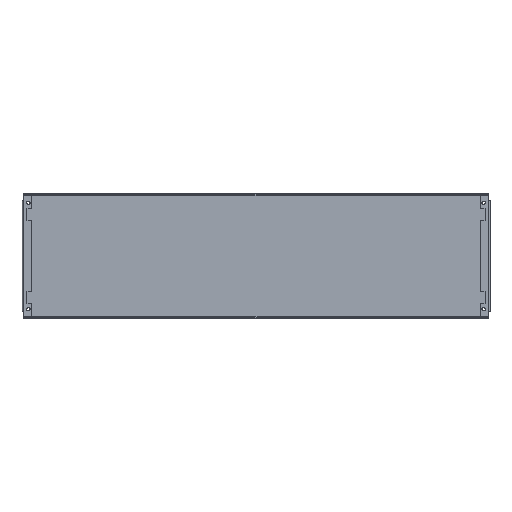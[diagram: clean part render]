
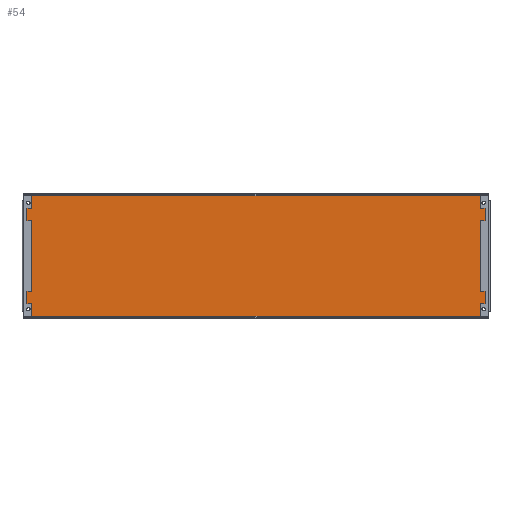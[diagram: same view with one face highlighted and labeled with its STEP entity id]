
A CAD part, top view. The second image highlights one B-rep face of the part: STEP entity #54.
In plain terms, the highlighted planar face has unit normal (0, 0, 1).
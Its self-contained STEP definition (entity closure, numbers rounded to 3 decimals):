
#54=ADVANCED_FACE('',(#186,#188,#190,#192,#194),#196,.T.);
#186=FACE_BOUND('',#187,.T.);
#187=EDGE_LOOP('',(#1129,#1130,#1131,#1132,#1133,#1134,#1135,#1136));
#188=FACE_BOUND('',#189,.T.);
#189=EDGE_LOOP('',(#1137));
#190=FACE_BOUND('',#191,.T.);
#191=EDGE_LOOP('',(#1138));
#192=FACE_BOUND('',#193,.T.);
#193=EDGE_LOOP('',(#1139));
#194=FACE_BOUND('',#195,.T.);
#195=EDGE_LOOP('',(#1140));
#196=PLANE('',#197);
#197=AXIS2_PLACEMENT_3D('',#198,#199,#200);
#198=CARTESIAN_POINT('',(0.,0.,2.));
#199=DIRECTION('',(0.,0.,1.));
#200=DIRECTION('',(1.,0.,0.));
#1129=ORIENTED_EDGE('',*,*,#1689,.T.);
#1130=ORIENTED_EDGE('',*,*,#1690,.T.);
#1131=ORIENTED_EDGE('',*,*,#1691,.T.);
#1132=ORIENTED_EDGE('',*,*,#1692,.T.);
#1133=ORIENTED_EDGE('',*,*,#1693,.T.);
#1134=ORIENTED_EDGE('',*,*,#1694,.T.);
#1135=ORIENTED_EDGE('',*,*,#1695,.T.);
#1136=ORIENTED_EDGE('',*,*,#1696,.T.);
#1137=ORIENTED_EDGE('',*,*,#1697,.T.);
#1138=ORIENTED_EDGE('',*,*,#1698,.T.);
#1139=ORIENTED_EDGE('',*,*,#1699,.T.);
#1140=ORIENTED_EDGE('',*,*,#1700,.T.);
#1689=EDGE_CURVE('',#1981,#1982,#1983,.F.);
#1690=EDGE_CURVE('',#1982,#1984,#1985,.T.);
#1691=EDGE_CURVE('',#1984,#1986,#1987,.F.);
#1692=EDGE_CURVE('',#1986,#1988,#1989,.T.);
#1693=EDGE_CURVE('',#1988,#1990,#1991,.F.);
#1694=EDGE_CURVE('',#1990,#1992,#1993,.T.);
#1695=EDGE_CURVE('',#1992,#1994,#1995,.F.);
#1696=EDGE_CURVE('',#1994,#1981,#1996,.T.);
#1697=EDGE_CURVE('',#1997,#1997,#1998,.T.);
#1698=EDGE_CURVE('',#1999,#1999,#2000,.T.);
#1699=EDGE_CURVE('',#2001,#2001,#2002,.T.);
#1700=EDGE_CURVE('',#2003,#2003,#2004,.T.);
#1981=VERTEX_POINT('',#2473);
#1982=VERTEX_POINT('',#2474);
#1983=LINE('',#2475,#2476);
#1984=VERTEX_POINT('',#2478);
#1985=LINE('',#2479,#2480);
#1986=VERTEX_POINT('',#2482);
#1987=LINE('',#2483,#2484);
#1988=VERTEX_POINT('',#2486);
#1989=LINE('',#2487,#2488);
#1990=VERTEX_POINT('',#2490);
#1991=LINE('',#2491,#2492);
#1992=VERTEX_POINT('',#2494);
#1993=LINE('',#2495,#2496);
#1994=VERTEX_POINT('',#2498);
#1995=LINE('',#2499,#2500);
#1996=LINE('',#2502,#2503);
#1997=VERTEX_POINT('',#2505);
#1998=CIRCLE('',#2506,8.5);
#1999=VERTEX_POINT('',#2510);
#2000=CIRCLE('',#2511,8.5);
#2001=VERTEX_POINT('',#2515);
#2002=CIRCLE('',#2516,8.5);
#2003=VERTEX_POINT('',#2520);
#2004=CIRCLE('',#2521,8.5);
#2473=CARTESIAN_POINT('',(4.,15.,2.));
#2474=CARTESIAN_POINT('',(4.,4.,2.));
#2475=CARTESIAN_POINT('',(4.,4.,2.));
#2476=VECTOR('',#2477,1.);
#2477=DIRECTION('',(0.,1.,0.));
#2478=CARTESIAN_POINT('',(1096.,4.,2.));
#2479=CARTESIAN_POINT('',(4.,4.,2.));
#2480=VECTOR('',#2481,1.);
#2481=DIRECTION('',(1.,0.,0.));
#2482=CARTESIAN_POINT('',(1096.,15.,2.));
#2483=CARTESIAN_POINT('',(1096.,15.,2.));
#2484=VECTOR('',#2485,1.);
#2485=DIRECTION('',(0.,-1.,0.));
#2486=CARTESIAN_POINT('',(1096.,277.,2.));
#2487=CARTESIAN_POINT('',(1096.,15.,2.));
#2488=VECTOR('',#2489,1.);
#2489=DIRECTION('',(0.,1.,0.));
#2490=CARTESIAN_POINT('',(1096.,288.,2.));
#2491=CARTESIAN_POINT('',(1096.,288.,2.));
#2492=VECTOR('',#2493,1.);
#2493=DIRECTION('',(0.,-1.,0.));
#2494=CARTESIAN_POINT('',(4.,288.,2.));
#2495=CARTESIAN_POINT('',(1096.,288.,2.));
#2496=VECTOR('',#2497,1.);
#2497=DIRECTION('',(-1.,0.,0.));
#2498=CARTESIAN_POINT('',(4.,277.,2.));
#2499=CARTESIAN_POINT('',(4.,277.,2.));
#2500=VECTOR('',#2501,1.);
#2501=DIRECTION('',(0.,1.,0.));
#2502=CARTESIAN_POINT('',(4.,277.,2.));
#2503=VECTOR('',#2504,1.);
#2504=DIRECTION('',(0.,-1.,0.));
#2505=CARTESIAN_POINT('',(23.5,21.,2.));
#2506=AXIS2_PLACEMENT_3D('',#2507,#2508,#2509);
#2507=CARTESIAN_POINT('',(15.,21.,2.));
#2508=DIRECTION('',(0.,0.,-1.));
#2509=DIRECTION('',(1.,0.,0.));
#2510=CARTESIAN_POINT('',(1093.5,21.,2.));
#2511=AXIS2_PLACEMENT_3D('',#2512,#2513,#2514);
#2512=CARTESIAN_POINT('',(1085.,21.,2.));
#2513=DIRECTION('',(0.,0.,-1.));
#2514=DIRECTION('',(1.,0.,0.));
#2515=CARTESIAN_POINT('',(23.5,271.,2.));
#2516=AXIS2_PLACEMENT_3D('',#2517,#2518,#2519);
#2517=CARTESIAN_POINT('',(15.,271.,2.));
#2518=DIRECTION('',(0.,0.,-1.));
#2519=DIRECTION('',(1.,0.,0.));
#2520=CARTESIAN_POINT('',(1093.5,271.,2.));
#2521=AXIS2_PLACEMENT_3D('',#2522,#2523,#2524);
#2522=CARTESIAN_POINT('',(1085.,271.,2.));
#2523=DIRECTION('',(0.,0.,-1.));
#2524=DIRECTION('',(1.,0.,0.));
